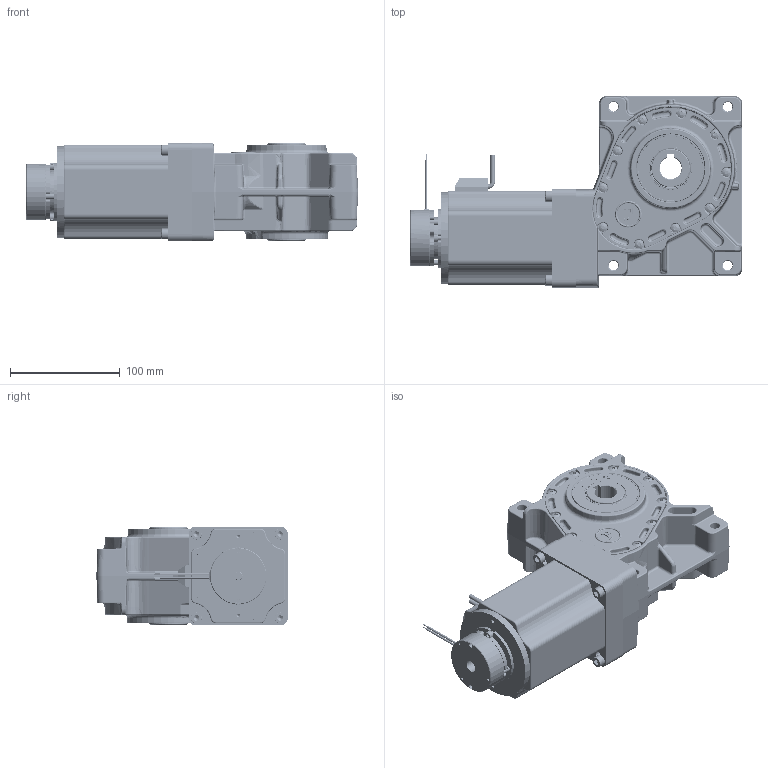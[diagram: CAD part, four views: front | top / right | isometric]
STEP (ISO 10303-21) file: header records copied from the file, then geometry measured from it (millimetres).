
FILE_DESCRIPTION (( 'STEP AP214' ), '1' );
FILE_NAME ('PBL86-55-GB65 - Brake.STEP', '2024-09-16T11:20:46', ( '' ), ( '' ), 'SwSTEP 2.0', 'SolidWorks 2023', '' );
FILE_SCHEMA (( 'AUTOMOTIVE_DESIGN' ));
Length unit declared in the file: millimetre
Products named in the file (1): PBL86-55-GB65 - Brake
Bounding box: 302.19 x 174.1 x 90 mm (x, y, z)
Surface area: 393297.5 mm2 (no closed solid volume)
Topology: 0 solids, 72 shells, 5532 faces, 13880 edges, 8447 vertices
Faces by surface type: cylinder 1750, bspline 1199, plane 1141, torus 708, cone 574, sphere 160
Entity records: 286024 total; most frequent: CARTESIAN_POINT 100845, ORIENTED_EDGE 27170, DIRECTION 24737, EDGE_CURVE 13587, AXIS2_PLACEMENT_3D 10128, VERTEX_POINT 8427, EDGE_LOOP 5869, CIRCLE 5794
